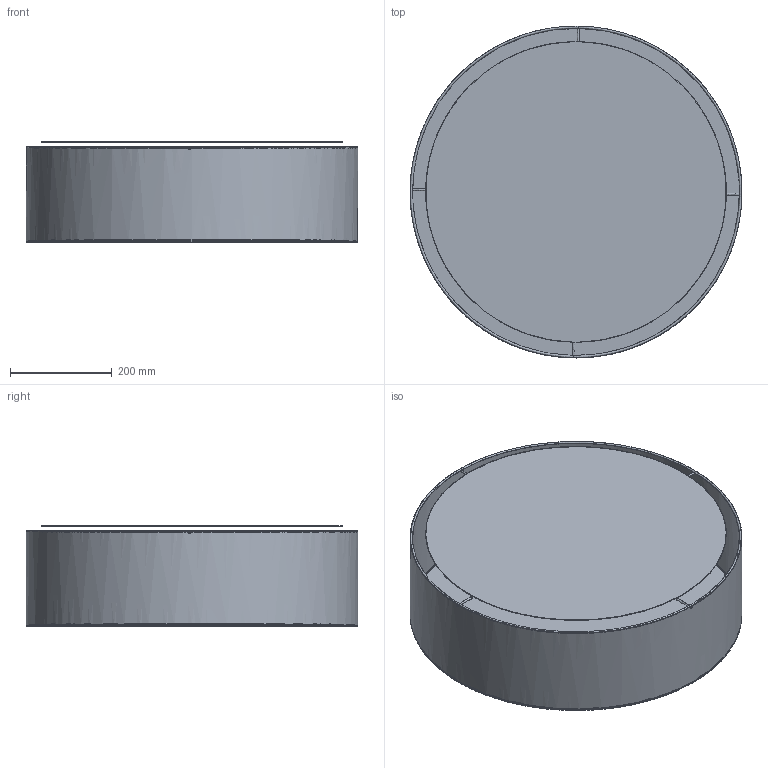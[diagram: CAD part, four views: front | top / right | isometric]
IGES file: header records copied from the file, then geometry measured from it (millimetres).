
Start section: SolidWorks IGES file using NURBS representation for surfaces
Global section: file name: Z:\Modele 3D_WWW\_KOLEKCJE WWW\CAMERON\CAMERON-9682-9606\CAMERON-9682-9606.IGS; native system: SolidWorks 2021; preprocessor: SolidWorks 2021; author: gabriela.tworek; date: 220324.114216; units: millimetre
Bounding box: 650.97 x 651 x 196.9 mm (x, y, z)
Surface area: 2010365.9 mm2 (no closed solid volume)
Topology: 0 solids, 0 shells, 37 faces, 666 edges, 615 vertices
Faces by surface type: bspline 37
